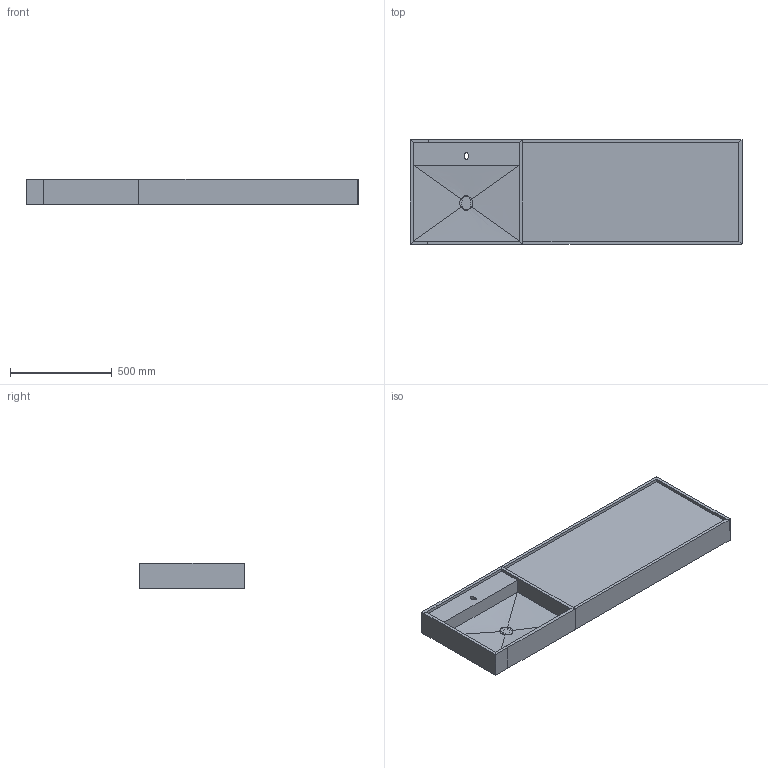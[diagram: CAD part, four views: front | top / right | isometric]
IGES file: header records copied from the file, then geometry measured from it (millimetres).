
Start section: Data from Parasolid IGES Translator 22.0.50, Copyright(c) 2006 Siemens P LM Software. All Rights Reserved.
Global section: file name: noorth-top-H 12,5 D 51,2 W 55,2_5358.igs; native system: By Siemens PLM Incorporated; preprocessor: XPlus GENERIC/IGES 22.0.50; author: Noname; organization: Noname; date: 20251109.151846; units: metre
Bounding box: 1634 x 513 x 127 mm (x, y, z)
Volume: 36528125.2 mm3; surface area: 4676098.5 mm2
Topology: 22 solids, 22 shells, 219 faces, 500 edges, 339 vertices
Faces by surface type: bspline 153, plane 56, cylinder 10
